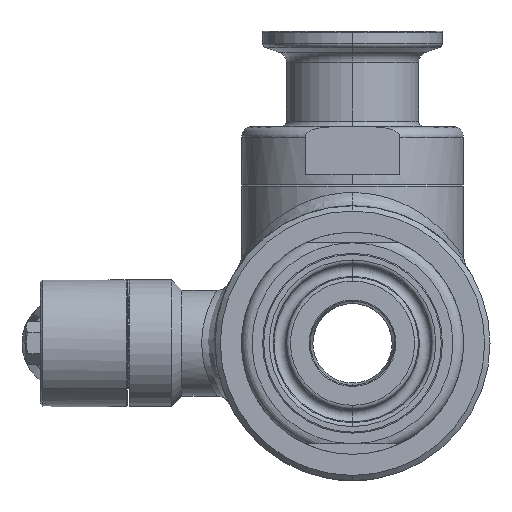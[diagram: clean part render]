
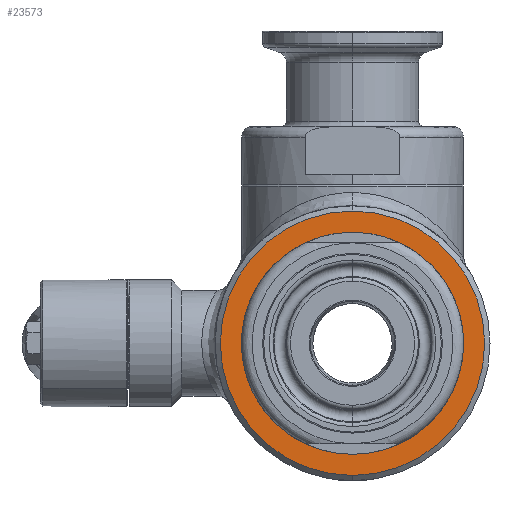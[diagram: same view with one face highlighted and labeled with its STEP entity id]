
A CAD part, left-side view. The second image highlights one B-rep face of the part: STEP entity #23573.
In plain terms, the highlighted planar face has unit normal (-1, 0, 0).
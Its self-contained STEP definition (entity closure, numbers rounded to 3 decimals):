
#9921=CARTESIAN_POINT('',(-30.,0.,0.));
#9922=DIRECTION('',(-1.,0.,0.));
#9923=DIRECTION('',(0.,0.,-1.));
#9924=AXIS2_PLACEMENT_3D('',#9921,#9922,#9923);
#9929=CARTESIAN_POINT('',(-30.,0.,0.));
#9930=DIRECTION('',(-1.,0.,0.));
#9931=DIRECTION('',(0.,0.,1.));
#9932=AXIS2_PLACEMENT_3D('',#9929,#9930,#9931);
#9937=CARTESIAN_POINT('',(-30.,0.,0.));
#9938=DIRECTION('',(-1.,0.,0.));
#9939=DIRECTION('',(0.,0.,-1.));
#9940=AXIS2_PLACEMENT_3D('',#9937,#9938,#9939);
#9945=CARTESIAN_POINT('',(-30.,0.,0.));
#9946=DIRECTION('',(-1.,0.,0.));
#9947=DIRECTION('',(0.,0.,1.));
#9948=AXIS2_PLACEMENT_3D('',#9945,#9946,#9947);
#14982=CARTESIAN_POINT('',(-30.,0.,-25.));
#14983=CARTESIAN_POINT('',(-30.,0.,25.));
#14984=VERTEX_POINT('',#14982);
#14985=VERTEX_POINT('',#14983);
#15540=CARTESIAN_POINT('',(-30.,0.,-21.));
#15541=CARTESIAN_POINT('',(-30.,0.,21.));
#15542=VERTEX_POINT('',#15540);
#15543=VERTEX_POINT('',#15541);
#23557=CARTESIAN_POINT('',(-30.,0.,0.));
#23558=DIRECTION('',(1.,0.,0.));
#23559=DIRECTION('',(0.,0.,1.));
#23560=AXIS2_PLACEMENT_3D('',#23557,#23558,#23559);
#23561=PLANE('',#23560);
#23563=ORIENTED_EDGE('',*,*,#23562,.F.);
#23565=ORIENTED_EDGE('',*,*,#23564,.F.);
#23566=EDGE_LOOP('',(#23563,#23565));
#23567=FACE_OUTER_BOUND('',#23566,.F.);
#23568=ORIENTED_EDGE('',*,*,#23539,.T.);
#23570=ORIENTED_EDGE('',*,*,#23569,.T.);
#23571=EDGE_LOOP('',(#23568,#23570));
#23572=FACE_BOUND('',#23571,.F.);
#23573=ADVANCED_FACE('',(#23567,#23572),#23561,.F.);
#9925=CIRCLE('',#9924,25.);
#9933=CIRCLE('',#9932,25.);
#9941=CIRCLE('',#9940,21.);
#9949=CIRCLE('',#9948,21.);
#23539=EDGE_CURVE('',#15542,#15543,#9941,.T.);
#23562=EDGE_CURVE('',#14984,#14985,#9925,.T.);
#23564=EDGE_CURVE('',#14985,#14984,#9933,.T.);
#23569=EDGE_CURVE('',#15543,#15542,#9949,.T.);
